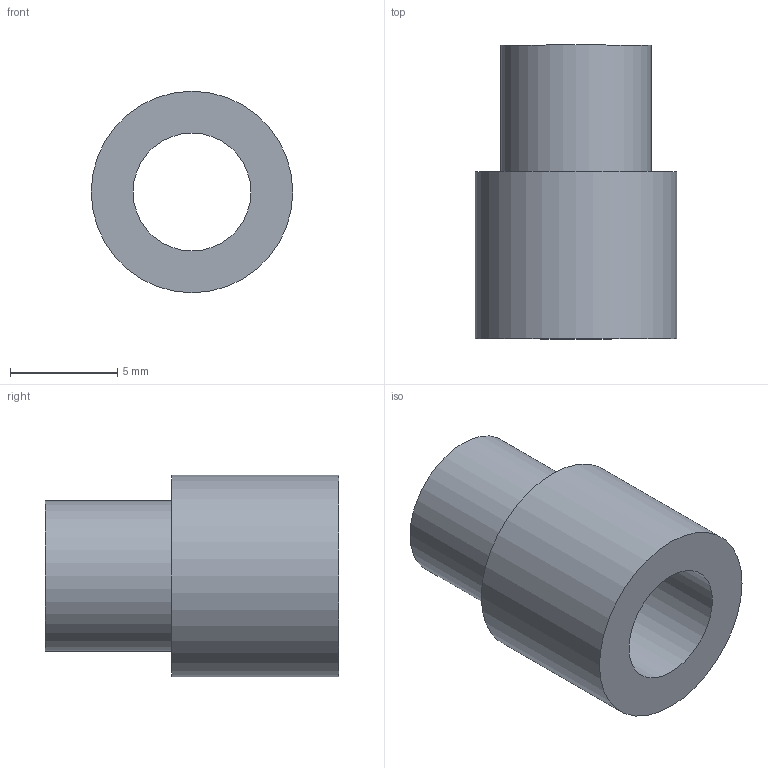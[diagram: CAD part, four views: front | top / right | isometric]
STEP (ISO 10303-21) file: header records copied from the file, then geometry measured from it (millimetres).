
FILE_DESCRIPTION((''),'2;1');
FILE_NAME('C:\TurckZip\DS-Ri-QR14.stp','2011-03-31T11:07:27',('IKOROL'),(''),'Autodesk Inventor 2010','Autodesk Inventor 2010','');
FILE_SCHEMA(('CONFIG_CONTROL_DESIGN'));
Length unit declared in the file: millimetre
Products named in the file (1): Part10
Bounding box: 9.4 x 13.7 x 9.4 mm (x, y, z)
Volume: 442.9 mm3; surface area: 688.1 mm2
Topology: 1 solids, 1 shells, 6 faces, 9 edges, 6 vertices
Faces by surface type: cylinder 3, plane 3
Full cylindrical faces by diameter (mm): 5.5 x1, 7 x1, 9.4 x1
Entity records: 154 total; most frequent: DIRECTION 26, CARTESIAN_POINT 19, AXIS2_PLACEMENT_3D 13, ORIENTED_EDGE 12, EDGE_LOOP 12, VERTEX_POINT 6, CIRCLE 6, EDGE_CURVE 6
